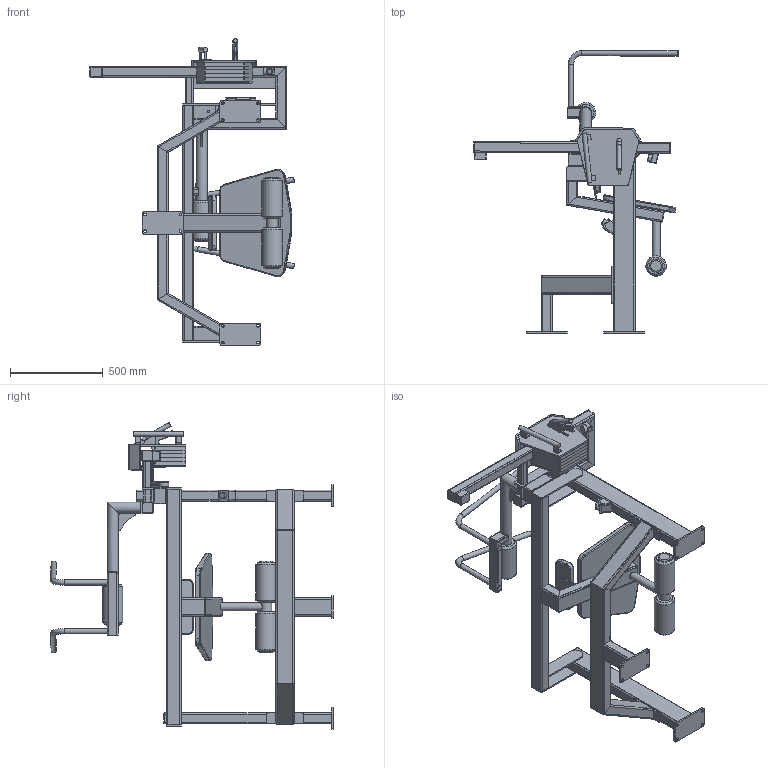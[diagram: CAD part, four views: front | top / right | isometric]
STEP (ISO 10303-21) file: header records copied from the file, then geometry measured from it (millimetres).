
FILE_DESCRIPTION(/* description */ (''),/* implementation_level */ '2;1');
FILE_NAME(/* name */ 'OG92_3D_Low.step',/* time_stamp */ '2025-11-11T16:09:41+02:00',/* author */ (''),/* organization */ (''),/* preprocessor_version */ 'ST-DEVELOPER v20.1',/* originating_system */ 'Autodesk Translation Framework v14.21.0.0',/* authorisation */ '');
FILE_SCHEMA (('AUTOMOTIVE_DESIGN { 1 0 10303 214 3 1 1 }'));
Length unit declared in the file: millimetre
Products named in the file (1): OG92_3D_Low
Bounding box: 1104.94 x 1523.91 x 1653.46 mm (x, y, z)
Volume: 31796580.6 mm3; surface area: 8075694.6 mm2
Topology: 82 solids, 87 shells, 1207 faces, 2933 edges, 1892 vertices
Faces by surface type: plane 644, cylinder 485, torus 42, cone 15, bspline 13, sphere 8
Full cylindrical faces by diameter (mm): 8.5 x5, 10 x3, 10.124 x2, 11.8 x1, 12 x4, 13 x15, 15 x12, 18 x2, 24.96 x2, 25 x6, 28 x8, 29 x2, 35 x1, 37.2 x1, 40 x1, 42 x1, 42.4 x1, 42.5 x1, 47 x1, 49 x4, 50 x1, 55 x4, 55.1 x3, 57 x3, 60 x3, 60.3 x3, 63 x6, 110 x3
Entity records: 38044 total; most frequent: CARTESIAN_POINT 8669, DIRECTION 6245, ORIENTED_EDGE 5842, EDGE_CURVE 2921, AXIS2_PLACEMENT_3D 2228, VERTEX_POINT 1892, LINE 1789, VECTOR 1789
